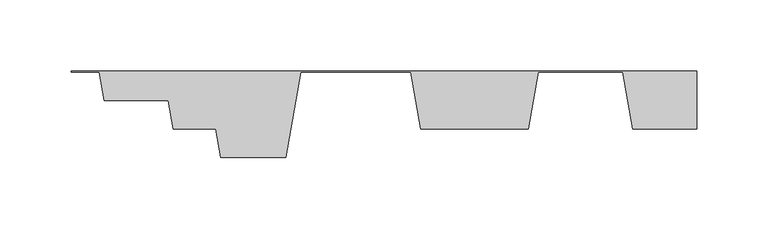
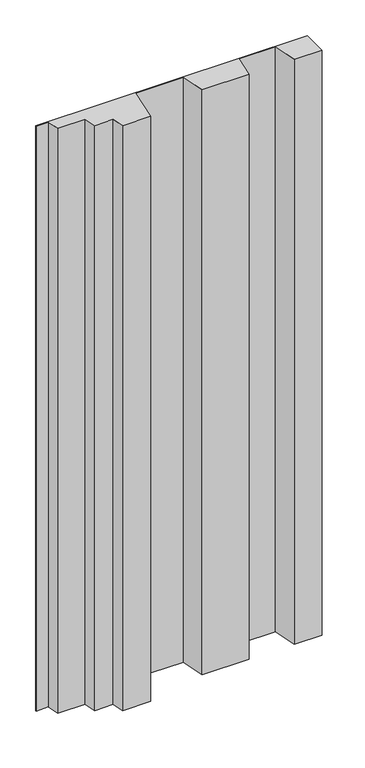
"""IFC4 building model written with IfcOpenShell, lengths in millimetres: plate geometry, ATELIERS 3S_NEW YORK MANHATTAN 780_VERTICAL : AZURO."""

import ifcopenshell
import ifcopenshell.guid

model = None  # the IFC model being written
_history = None  # IfcOwnerHistory: only IFC2X3 demands one
_inside = {}  # id of a spatial element -> (the spatial element, [elements in it])
_under = {}  # id of a project, library or spatial element -> (it, [spatial elements below it])
_declared = {}  # id of a project -> (the project, [libraries it declares])
_typed = {}  # id of a type object -> (the type object, [elements of that type])
_made_of = {}  # id of a material, layer set ... -> (it, [elements and type objects made of it])


def new_model(schema):
    """Start an empty IFC model of exactly this schema.

    Asked for "IFC4X3", IfcOpenShell would pick the latest addendum, in which some entities
    have other attributes; the version numbers below select the first issue.
    IFC2X3 requires an IfcOwnerHistory on every rooted entity: one is made here for all.
    """
    global model, _history
    if schema == "IFC4X3":
        model = ifcopenshell.file(schema_version=(4, 3, 0, 0))
    else:
        model = ifcopenshell.file(schema=schema)
    _inside.clear()
    _under.clear()
    _declared.clear()
    _typed.clear()
    _made_of.clear()
    _history = None
    if model.schema == "IFC2X3":
        org = make("IfcOrganization", Name="unknown")
        user = make(
            "IfcPersonAndOrganization",
            ThePerson=make("IfcPerson", FamilyName="unknown"),
            TheOrganization=org,
        )
        app = make(
            "IfcApplication",
            ApplicationDeveloper=org,
            Version="unknown",
            ApplicationFullName="unknown",
            ApplicationIdentifier="unknown",
        )
        _history = make(
            "IfcOwnerHistory",
            OwningUser=user,
            OwningApplication=app,
            ChangeAction="ADDED",
            CreationDate=0,
        )
    return model


def make(cls, **values):
    """One entity of the class cls with the attributes given. An attribute that is None is left unset."""
    return model.create_entity(
        cls, **{name: value for name, value in values.items() if value is not None}
    )


def rooted(cls, **values):
    """An entity with a GlobalId (a new one), such as an element, a storey or a relation."""
    return make(cls, GlobalId=ifcopenshell.guid.new(), OwnerHistory=_history, **values)


def si_unit(unit_type, name, prefix=None):
    """IfcSIUnit, for example si_unit("LENGTHUNIT", "METRE", prefix="MILLI")."""
    return make("IfcSIUnit", UnitType=unit_type, Prefix=prefix, Name=name)


def assignment(units):
    """IfcUnitAssignment: the units of a project."""
    return None if units is None else make("IfcUnitAssignment", Units=units)


def point(xyz):
    """IfcCartesianPoint."""
    return None if xyz is None else make("IfcCartesianPoint", Coordinates=xyz)


def direction(xyz):
    """IfcDirection."""
    return None if xyz is None else make("IfcDirection", DirectionRatios=xyz)


def frame(location, z_axis=None, x_axis=None):
    """IfcAxis2Placement3D, a coordinate frame: its origin and axes. An axis left out is left unset."""
    return make(
        "IfcAxis2Placement3D",
        Location=point(location),
        Axis=direction(z_axis),
        RefDirection=direction(x_axis),
    )


def origin():
    """The frame at (0, 0, 0) with its axes left unset."""
    return frame((0.0, 0.0, 0.0))


def origin_with_axes():
    """The frame at (0, 0, 0) with the z axis (0, 0, 1) and the x axis (1, 0, 0) written out."""
    return frame((0.0, 0.0, 0.0), z_axis=(0.0, 0.0, 1.0), x_axis=(1.0, 0.0, 0.0))


def place(relative_to, where):
    """IfcLocalPlacement: puts the frame where relative to a parent placement (None: the world)."""
    return make(
        "IfcLocalPlacement", PlacementRelTo=relative_to, RelativePlacement=where
    )


def context(
    kind, dimensions, precision=None, world=None, true_north=None, identifier=None
):
    """IfcGeometricRepresentationContext, for example the 3D "Model" context."""
    return make(
        "IfcGeometricRepresentationContext",
        ContextIdentifier=identifier,
        ContextType=kind,
        CoordinateSpaceDimension=dimensions,
        Precision=precision,
        WorldCoordinateSystem=world,
        TrueNorth=true_north,
    )


def project(units=None, contexts=None):
    """IfcProject with its units and contexts."""
    return rooted(
        "IfcProject",
        Name="project",
        RepresentationContexts=contexts,
        UnitsInContext=assignment(units),
    )


def spatial(cls, under=None, at=None, **own):
    """A site, building, storey or space (cls), placed at a placement, below another one or the project."""
    s = rooted(cls, ObjectPlacement=at, **own)
    if under is not None:
        _under.setdefault(under.id(), (under, []))[1].append(s)
    return s


def polyline(points):
    """IfcPolyline through the points."""
    return make("IfcPolyline", Points=[point(p) for p in points])


def outline(outer, holes=None, kind="AREA"):
    """IfcArbitraryClosedProfileDef: a profile drawn as a closed curve; with holes, ...WithVoids."""
    if holes is None:
        return make("IfcArbitraryClosedProfileDef", ProfileType=kind, OuterCurve=outer)
    return make(
        "IfcArbitraryProfileDefWithVoids",
        ProfileType=kind,
        OuterCurve=outer,
        InnerCurves=holes,
    )


def extrude(swept, where, along, depth):
    """IfcExtrudedAreaSolid: the profile swept, set in the frame where, extruded along a direction by depth."""
    return make(
        "IfcExtrudedAreaSolid",
        SweptArea=swept,
        Position=where,
        ExtrudedDirection=direction(along),
        Depth=depth,
    )


def shape(context_of_items, identifier, shape_type, items):
    """IfcShapeRepresentation: the items that make up one representation, for example the "Body"."""
    return make(
        "IfcShapeRepresentation",
        ContextOfItems=context_of_items,
        RepresentationIdentifier=identifier,
        RepresentationType=shape_type,
        Items=items,
    )


def source(mapping_origin, context_of_items, identifier, shape_type, items):
    """IfcRepresentationMap: a shape defined once, which mapped items show again and again."""
    return make(
        "IfcRepresentationMap",
        MappingOrigin=mapping_origin,
        MappedRepresentation=shape(context_of_items, identifier, shape_type, items),
    )


def transform(
    local_origin,
    x_axis=None,
    y_axis=None,
    z_axis=None,
    scale=None,
    scale2=None,
    scale3=None,
    uniform=True,
):
    """IfcCartesianTransformationOperator3D, or its non-uniform kind. x_axis, y_axis, z_axis: its Axis1, 2, 3."""
    if uniform:
        return make(
            "IfcCartesianTransformationOperator3D",
            Axis1=direction(x_axis),
            Axis2=direction(y_axis),
            LocalOrigin=point(local_origin),
            Scale=scale,
            Axis3=direction(z_axis),
        )
    return make(
        "IfcCartesianTransformationOperator3DnonUniform",
        Axis1=direction(x_axis),
        Axis2=direction(y_axis),
        LocalOrigin=point(local_origin),
        Scale=scale,
        Axis3=direction(z_axis),
        Scale2=scale2,
        Scale3=scale3,
    )


def mapped(mapping_source, mapping_target):
    """IfcMappedItem: shows the shape of a source again, moved by a transform."""
    return make(
        "IfcMappedItem", MappingSource=mapping_source, MappingTarget=mapping_target
    )


def made_of(thing, what):
    """Note that an element or type object is made of a material, layer set ...; save() writes the relation."""
    if what is not None:
        _made_of.setdefault(what.id(), (what, []))[1].append(thing)
    return thing


def element(
    cls,
    number,
    at=None,
    inside=None,
    cuts=None,
    type_object=None,
    material=None,
    context=None,
    identifier="Body",
    shape_type=None,
    held_by="IfcProductDefinitionShape",
    body=None,
    shapes=None,
    **own,
):
    """One element of the class cls, such as IfcWall. Its Tag is "e" and its number.

    at: its placement. inside: the storey or other place that contains it. cuts: it is an
    opening in that element (IfcRelVoidsElement). A single representation is given by context,
    identifier, shape_type and body (its items); several are given by shapes. held_by: the class
    of the entity that holds the representations. save() writes the other relations.
    """
    e = rooted(cls, Tag="e%d" % number, ObjectPlacement=at, **own)
    if body is not None:
        shapes = [shape(context, identifier, shape_type, body)]
    if shapes is not None:
        e.Representation = make(held_by, Representations=shapes)
    if inside is not None:
        _inside.setdefault(inside.id(), (inside, []))[1].append(e)
    if cuts is not None:
        rooted(
            "IfcRelVoidsElement", RelatingBuildingElement=cuts, RelatedOpeningElement=e
        )
    if type_object is not None:
        _typed.setdefault(type_object.id(), (type_object, []))[1].append(e)
    return made_of(e, material)


def aggregate(whole, parts):
    """IfcRelAggregates: a whole, such as a stair, and the parts it consists of."""
    return rooted("IfcRelAggregates", RelatingObject=whole, RelatedObjects=parts)


def save(model, path):
    """Write the relations noted so far, then the file.

    IfcRelAggregates (storeys below a building ...), IfcRelContainedInSpatialStructure (elements
    in a storey), IfcRelDefinesByType, IfcRelAssociatesMaterial and IfcRelDeclares: one each for
    every whole, place, type object, material and project.
    """
    for whole, parts in _under.values():
        aggregate(whole, parts)
    for where, things in _inside.values():
        rooted(
            "IfcRelContainedInSpatialStructure",
            RelatedElements=things,
            RelatingStructure=where,
        )
    for kind, things in _typed.values():
        rooted("IfcRelDefinesByType", RelatedObjects=things, RelatingType=kind)
    for what, things in _made_of.values():
        rooted("IfcRelAssociatesMaterial", RelatedObjects=things, RelatingMaterial=what)
    for by, libraries in _declared.values():
        rooted("IfcRelDeclares", RelatingContext=by, RelatedDefinitions=libraries)
    model.write(path)


def plate_79fa6ca0(model_context):
    return source(origin(), model_context, "Body", "SweptSolid", [
        extrude(outline(polyline([(-200.3146622, -0.864757), (-219.9999998, -0.864757), (-219.9999998, 0.0), (219.9999998, 0.0), (219.9999998, -40.864757), (175.0038132, -40.864757), (167.9507339, -0.864757), (108.5800587, -0.864757), (101.5269794, -40.864757), (25.8976547, -40.864757), (18.8445755, -0.864757), (-58.5260998, -0.864757), (-69.1057186, -60.864757), (-114.7350434, -60.864757), (-118.261583, -40.864757), (-148.261583, -40.864757), (-151.7881226, -20.864757), (-196.7881226, -20.864757), (-200.3146622, -0.864757)])), origin_with_axes(), (0.0, 0.0, 1.0), 1000.0),
    ])


if __name__ == "__main__":
    model = new_model("IFC4")
    model_context = context("Model", 3, world=origin())
    ifc_project = project(units=[si_unit("LENGTHUNIT", "METRE", prefix="MILLI")], contexts=[model_context])
    site = spatial("IfcSite", under=ifc_project)
    building = spatial("IfcBuilding", under=site)
    placement = place(None, origin())
    plate_shape = plate_79fa6ca0(model_context)
    element("IfcPlate", 1, ObjectType="ATELIERS 3S_NEW YORK MANHATTAN 780_VERTICAL : AZURO", at=placement, inside=building, context=model_context, shape_type="MappedRepresentation", body=[
        mapped(plate_shape, transform((0.0, 0.0, 0.0), x_axis=(1.0, 0.0, 0.0), y_axis=(0.0, 1.0, 0.0), z_axis=(0.0, 0.0, 1.0))),
    ])
    save(model, "model.ifc")
